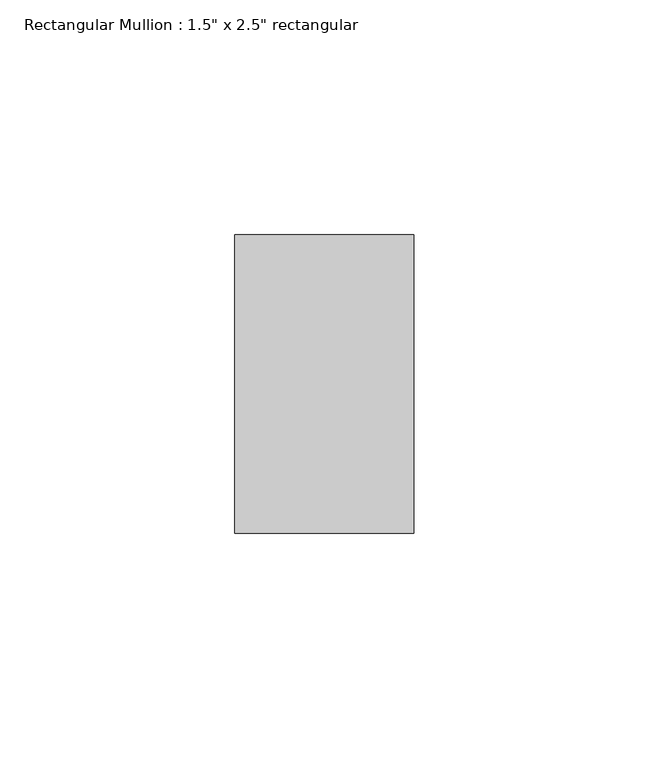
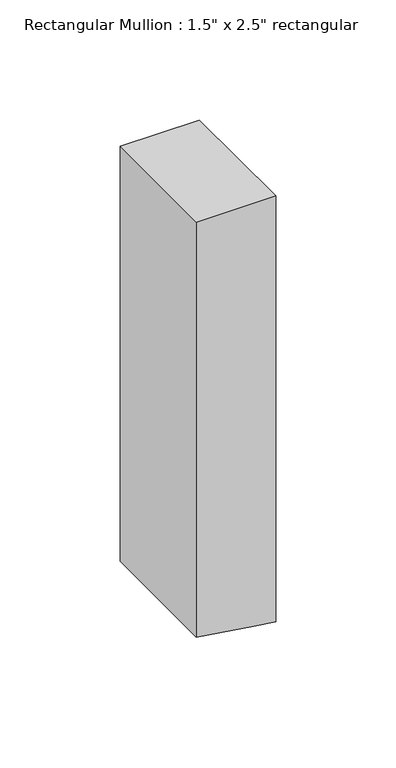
"""IFC4 building model written with IfcOpenShell, lengths in millimetres: member geometry."""

from ifc_helpers import new_model, si_unit, frame, origin, place, context, project, spatial, polyline, outline, extrude, source, transform, mapped, element, save


def member_ac0e112d(model_context):
    return source(origin(), model_context, "Body", "SweptSolid", [
        extrude(outline(polyline([(0.0, 19.05), (0.0, -19.05), (-211.0058884, -19.05), (-215.2615272, 8.6227626), (-216.5167091, 19.05), (0.0, 19.05)])), frame((0.0, -31.75, 0.0), z_axis=(0.0, 1.0, 0.0), x_axis=(0.0, 0.0, 1.0)), (0.0, 0.0, 1.0), 63.5),
    ])


if __name__ == "__main__":
    model = new_model("IFC4")
    model_context = context("Model", 3, world=origin())
    ifc_project = project(units=[si_unit("LENGTHUNIT", "METRE", prefix="MILLI")], contexts=[model_context])
    site = spatial("IfcSite", under=ifc_project)
    building = spatial("IfcBuilding", under=site)
    placement = place(None, origin())
    member_shape = member_ac0e112d(model_context)
    element("IfcMember", 1, ObjectType="Rectangular Mullion : 1.5\" x 2.5\" rectangular", at=placement, inside=building, context=model_context, shape_type="MappedRepresentation", body=[
        mapped(member_shape, transform((0.0, 0.0, 0.0), x_axis=(1.0, 0.0, 0.0), y_axis=(0.0, 1.0, 0.0), z_axis=(0.0, 0.0, 1.0))),
    ])
    save(model, "model.ifc")
